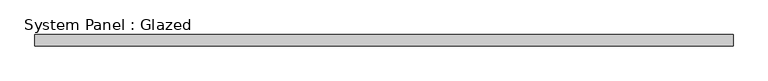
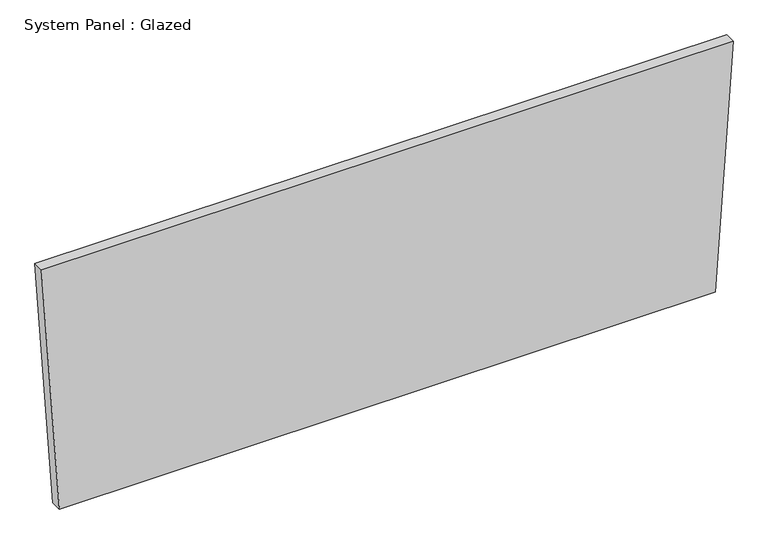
"""IFC4 building model written with IfcOpenShell, lengths in millimetres: plate geometry, System Panel : Glazed."""

from ifc_helpers import new_model, si_unit, frame, origin, place, context, project, spatial, polyline, outline, extrude, source, transform, mapped, element, save


def system_panel_glazed_b1c1e64b(model_context):
    return source(origin(), model_context, "Body", "SweptSolid", [
        extrude(outline(polyline([(0.0, -737.796167), (0.0, 737.796167), (582.7548153, 777.9949885), (582.7548153, -777.9949885), (0.0, -737.796167)])), frame((0.0, -44.45, 0.0), z_axis=(0.0, 1.0, 0.0), x_axis=(0.0, 0.0, 1.0)), (0.0, 0.0, 1.0), 25.4),
    ])


if __name__ == "__main__":
    model = new_model("IFC4")
    model_context = context("Model", 3, world=origin())
    ifc_project = project(units=[si_unit("LENGTHUNIT", "METRE", prefix="MILLI")], contexts=[model_context])
    site = spatial("IfcSite", under=ifc_project)
    building = spatial("IfcBuilding", under=site)
    placement = place(None, origin())
    system_panel_glazed_shape = system_panel_glazed_b1c1e64b(model_context)
    element("IfcPlate", 1, ObjectType="System Panel : Glazed", at=placement, inside=building, context=model_context, shape_type="MappedRepresentation", body=[
        mapped(system_panel_glazed_shape, transform((0.0, 0.0, 0.0), x_axis=(1.0, 0.0, 0.0), y_axis=(0.0, 1.0, 0.0), z_axis=(0.0, 0.0, 1.0))),
    ])
    save(model, "model.ifc")
